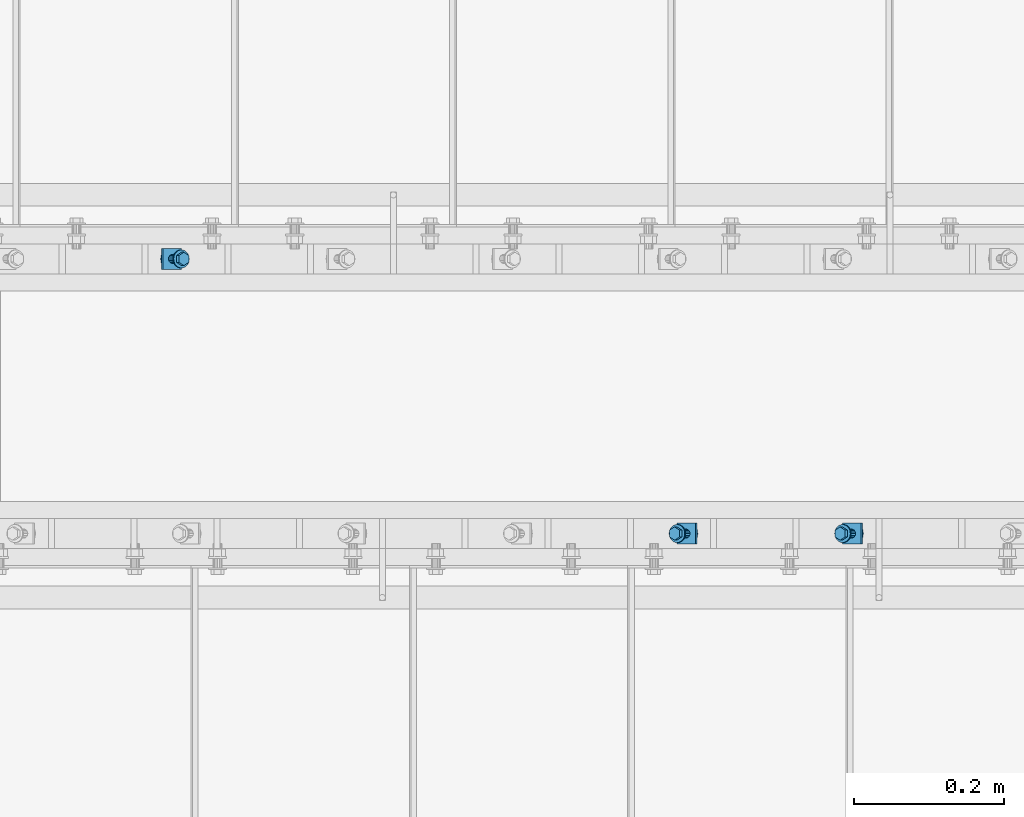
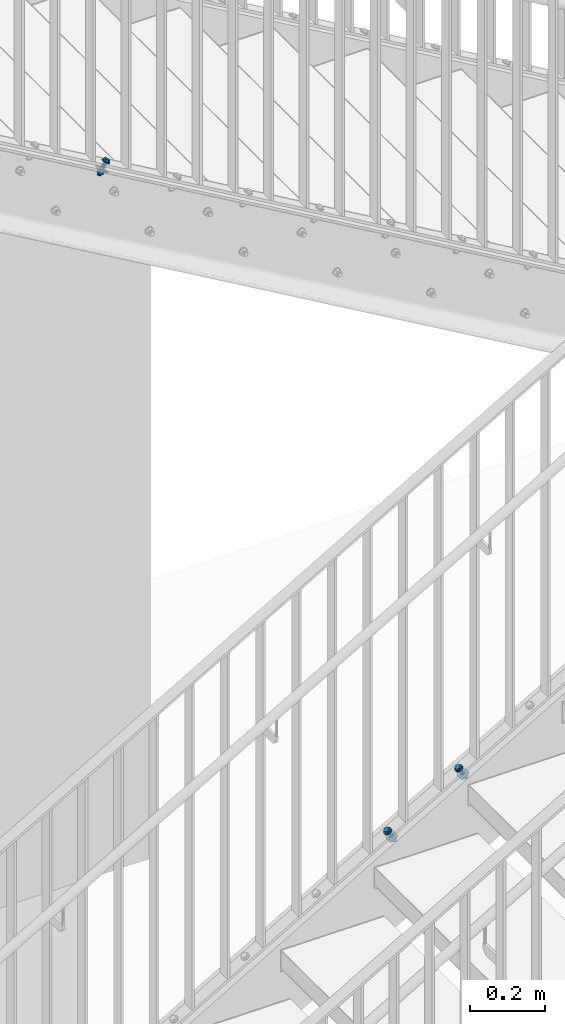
# One storey, part 83 of 145: 3 mechanical fasteners.
"""IFC2X3 building model written with IfcOpenShell, lengths in millimetres."""

from ifc_helpers import new_model, entity, si_unit, converted_unit, origin_with_axes, place, context, project, spatial, faceted_brep, element, save


model = new_model("IFC2X3")

# Units and contexts
model_context = context("Model", 3, precision=1e-09, world=origin_with_axes())
ifc_project = project(units=[si_unit("LENGTHUNIT", "METRE", prefix="MILLI"), si_unit("AREAUNIT", "SQUARE_METRE"), si_unit("VOLUMEUNIT", "CUBIC_METRE"), converted_unit("PLANEANGLEUNIT", "DEGREE", entity("IfcPlaneAngleMeasure", 0.01745329), si_unit("PLANEANGLEUNIT", "RADIAN"), dimensions=[0, 0, 0, 0, 0, 0, 0])], contexts=[model_context])

# Site, building, storey
site_placement = place(None, origin_with_axes())
site = spatial("IfcSite", under=ifc_project, at=site_placement, Name="BZ1 Grund- und Mittelschule 85716 Unterschlei?heim", CompositionType="ELEMENT")
building_placement = place(site_placement, origin_with_axes())
building = spatial("IfcBuilding", under=site, at=building_placement, Name="Struktur 1", CompositionType="ELEMENT")
storey_placement = place(building_placement, origin_with_axes())
storey = spatial("IfcBuildingStorey", under=building, at=storey_placement, Name="Default Storey", CompositionType="ELEMENT", Elevation=0.0)

# Mechanical fasteners
mechanical_fastener_1_placement = place(None, origin_with_axes())
element("IfcMechanicalFastener", 1, at=mechanical_fastener_1_placement, inside=storey, ObjectType="-", NominalDiameter=12.0, NominalLength=45.0, context=model_context, shape_type="Brep", body=[
    faceted_brep([(18460.950503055, -1877.502, 782.508646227), (18459.693775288, -1877.502, 784.669811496), (18459.893100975, -1875.160916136, 784.78572032), (18461.149828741, -1875.160916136, 782.62455505), (18460.483418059, -1872.909798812, 785.12899248), (18461.740145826, -1872.909798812, 782.967827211), (18461.442040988, -1870.835157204, 785.686436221), (18462.698768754, -1870.835157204, 783.525270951), (18462.732130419, -1869.016718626, 786.436629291), (18463.988858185, -1869.016718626, 784.275464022), (18464.304108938, -1867.524364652, 787.350742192), (18465.560836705, -1867.524364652, 785.189576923), (18466.097566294, -1866.41544561, 788.393646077), (18467.35429406, -1866.41544561, 786.232480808), (18468.043580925, -1865.732576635, 789.525262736), (18469.300308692, -1865.732576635, 787.364097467), (18470.067368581, -1865.502, 790.702104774), (18471.324096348, -1865.502, 788.540939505), (18472.091156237, -1865.732576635, 791.878946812), (18473.347884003, -1865.732576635, 789.717781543), (18474.037170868, -1866.41544561, 793.010563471), (18475.293898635, -1866.41544561, 790.849398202), (18475.830628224, -1867.524364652, 794.053467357), (18477.08735599, -1867.524364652, 791.892302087), (18477.402606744, -1869.016718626, 794.967580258), (18478.65933451, -1869.016718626, 792.806414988), (18478.692696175, -1870.835157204, 795.717773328), (18479.949423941, -1870.835157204, 793.556608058), (18479.651319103, -1872.909798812, 796.275217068), (18480.908046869, -1872.909798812, 794.114051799), (18480.241636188, -1875.160916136, 796.618489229), (18481.498363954, -1875.160916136, 794.457323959), (18480.440961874, -1877.502, 796.734398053), (18481.69768964, -1877.502, 794.573232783), (18480.241636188, -1879.843083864, 796.618489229), (18481.498363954, -1879.843083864, 794.457323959), (18479.651319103, -1882.094201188, 796.275217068), (18480.908046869, -1882.094201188, 794.114051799), (18478.692696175, -1884.168842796, 795.717773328), (18479.949423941, -1884.168842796, 793.556608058), (18477.402606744, -1885.987281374, 794.967580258), (18478.65933451, -1885.987281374, 792.806414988), (18475.830628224, -1887.479635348, 794.053467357), (18477.08735599, -1887.479635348, 791.892302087), (18474.037170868, -1888.58855439, 793.010563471), (18475.293898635, -1888.58855439, 790.849398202), (18472.091156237, -1889.271423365, 791.878946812), (18473.347884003, -1889.271423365, 789.717781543), (18470.067368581, -1889.502, 790.702104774), (18471.324096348, -1889.502, 788.540939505), (18468.043580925, -1889.271423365, 789.525262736), (18469.300308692, -1889.271423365, 787.364097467), (18466.097566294, -1888.58855439, 788.393646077), (18467.35429406, -1888.58855439, 786.232480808), (18464.304108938, -1887.479635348, 787.350742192), (18465.560836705, -1887.479635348, 785.189576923), (18462.732130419, -1885.987281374, 786.436629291), (18463.988858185, -1885.987281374, 784.275464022), (18461.442040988, -1884.168842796, 785.686436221), (18462.698768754, -1884.168842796, 783.525270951), (18460.483418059, -1882.094201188, 785.12899248), (18461.740145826, -1882.094201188, 782.967827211), (18459.893100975, -1879.843083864, 784.78572032), (18461.149828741, -1879.843083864, 782.62455505)], [[[0, 1, 2, 3]], [[3, 2, 4, 5]], [[5, 4, 6, 7]], [[7, 6, 8, 9]], [[9, 8, 10, 11]], [[11, 10, 12, 13]], [[13, 12, 14, 15]], [[15, 14, 16, 17]], [[17, 16, 18, 19]], [[19, 18, 20, 21]], [[21, 20, 22, 23]], [[23, 22, 24, 25]], [[25, 24, 26, 27]], [[27, 26, 28, 29]], [[29, 28, 30, 31]], [[31, 30, 32, 33]], [[33, 32, 34, 35]], [[35, 34, 36, 37]], [[37, 36, 38, 39]], [[39, 38, 40, 41]], [[41, 40, 42, 43]], [[43, 42, 44, 45]], [[45, 44, 46, 47]], [[47, 46, 48, 49]], [[49, 48, 50, 51]], [[51, 50, 52, 53]], [[53, 52, 54, 55]], [[55, 54, 56, 57]], [[57, 56, 58, 59]], [[59, 58, 60, 61]], [[61, 60, 62, 63]], [[63, 62, 1, 0]], [[2, 1, 62, 60, 58, 56, 54, 52, 50, 48, 46, 44, 42, 40, 38, 36, 34, 32, 30, 28, 26, 24, 22, 20, 18, 16, 14, 12, 10, 8, 6, 4]], [[63, 0, 3, 5, 7, 9, 11, 13, 15, 17, 19, 21, 23, 25, 27, 29, 31, 33, 35, 37, 39, 41, 43, 45, 47, 49, 51, 53, 55, 57, 59, 61]]]),
    faceted_brep([(18473.501897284, -1873.0595, 800.102712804), (18476.719120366, -1873.0595, 794.570129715), (18470.067368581, -1868.617, 790.702104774), (18466.850145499, -1868.617, 796.234687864), (18463.415616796, -1873.0595, 786.834079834), (18460.198393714, -1873.0595, 792.366662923), (18463.415616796, -1881.9445, 786.834079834), (18460.198393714, -1881.9445, 792.366662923), (18470.067368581, -1886.387, 790.702104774), (18466.850145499, -1886.387, 796.234687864), (18476.719120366, -1881.9445, 794.570129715), (18473.501897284, -1881.9445, 800.102712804)], [[[0, 1, 2, 3]], [[3, 2, 4, 5]], [[5, 4, 6, 7]], [[7, 6, 8, 9]], [[9, 8, 10, 11]], [[11, 10, 1, 0]], [[3, 5, 7, 9, 11, 0]], [[2, 1, 10, 8, 6, 4]]]),
    faceted_brep([(18477.03706156, -1877.502, 766.780727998), (18466.137299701, -1877.502, 785.524792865), (18466.532121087, -1875.205899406, 785.754383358), (18477.431882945, -1875.205899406, 767.01031849), (18467.656477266, -1873.259359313, 786.408201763), (18478.556239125, -1873.259359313, 767.664136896), (18469.339195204, -1871.958722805, 787.386710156), (18480.238957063, -1871.958722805, 768.642645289), (18471.324096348, -1871.502, 788.540939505), (18482.223858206, -1871.502, 769.796874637), (18473.308997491, -1871.958722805, 789.695168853), (18484.20875935, -1871.958722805, 770.951103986), (18474.991715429, -1873.259359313, 790.673677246), (18485.891477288, -1873.259359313, 771.929612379), (18476.116071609, -1875.205899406, 791.327495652), (18487.015833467, -1875.205899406, 772.583430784), (18476.510892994, -1877.502, 791.557086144), (18487.410654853, -1877.502, 772.813021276), (18476.116071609, -1879.798100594, 791.327495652), (18487.015833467, -1879.798100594, 772.583430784), (18474.991715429, -1881.744640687, 790.673677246), (18485.891477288, -1881.744640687, 771.929612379), (18473.308997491, -1883.045277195, 789.695168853), (18484.20875935, -1883.045277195, 770.951103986), (18471.324096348, -1883.502, 788.540939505), (18482.223858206, -1883.502, 769.796874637), (18469.339195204, -1883.045277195, 787.386710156), (18480.238957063, -1883.045277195, 768.642645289), (18467.656477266, -1881.744640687, 786.408201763), (18478.556239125, -1881.744640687, 767.664136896), (18466.532121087, -1879.798100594, 785.754383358), (18477.431882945, -1879.798100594, 767.01031849)], [[[0, 1, 2, 3]], [[3, 2, 4, 5]], [[5, 4, 6, 7]], [[7, 6, 8, 9]], [[9, 8, 10, 11]], [[11, 10, 12, 13]], [[13, 12, 14, 15]], [[15, 14, 16, 17]], [[17, 16, 18, 19]], [[19, 18, 20, 21]], [[21, 20, 22, 23]], [[23, 22, 24, 25]], [[25, 24, 26, 27]], [[27, 26, 28, 29]], [[29, 28, 30, 31]], [[31, 30, 1, 0]], [[2, 1, 30, 28, 26, 24, 22, 20, 18, 16, 14, 12, 10, 8, 6, 4]], [[31, 0, 3, 5, 7, 9, 11, 13, 15, 17, 19, 21, 23, 25, 27, 29]]]),
    faceted_brep([(18494.449255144, -1863.359864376, 776.906000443), (18496.46001957, -1863.359864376, 773.448136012), (18472.009225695, -1863.359864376, 759.229884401), (18469.998461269, -1863.359864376, 762.687748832), (18472.009225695, -1891.644135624, 759.229884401), (18469.998461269, -1891.644135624, 762.687748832), (18496.46001957, -1891.644135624, 773.448136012), (18494.449255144, -1891.644135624, 776.906000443)], [[[0, 1, 2, 3]], [[3, 2, 4, 5]], [[5, 4, 6, 7]], [[7, 6, 1, 0]], [[3, 5, 7, 0]], [[2, 1, 6, 4]]]),
    faceted_brep([(18492.132876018, -1872.227, 770.931881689), (18497.159787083, -1872.227, 762.287220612), (18489.261533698, -1866.952, 757.694349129), (18484.234622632, -1866.952, 766.339010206), (18481.363280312, -1872.227, 753.101477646), (18476.336369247, -1872.227, 761.746138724), (18481.363280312, -1882.777, 753.101477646), (18476.336369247, -1882.777, 761.746138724), (18489.261533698, -1888.052, 757.694349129), (18484.234622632, -1888.052, 766.339010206), (18497.159787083, -1882.777, 762.287220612), (18492.132876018, -1882.777, 770.931881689)], [[[0, 1, 2, 3]], [[3, 2, 4, 5]], [[5, 4, 6, 7]], [[7, 6, 8, 9]], [[9, 8, 10, 11]], [[11, 10, 1, 0]], [[3, 5, 7, 9, 11, 0]], [[2, 1, 10, 8, 6, 4]]]),
    faceted_brep([(18487.501671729, -1877.502, 748.784983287), (18484.074737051, -1877.502, 754.67820249), (18484.469558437, -1875.205899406, 754.907792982), (18487.896493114, -1875.205899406, 749.014573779), (18485.593914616, -1873.259359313, 755.561611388), (18489.020849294, -1873.259359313, 749.668392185), (18487.276632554, -1871.958722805, 756.540119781), (18490.703567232, -1871.958722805, 750.646900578), (18489.261533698, -1871.502, 757.694349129), (18492.688468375, -1871.502, 751.801129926), (18491.246434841, -1871.958722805, 758.848578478), (18494.673369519, -1871.958722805, 752.955359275), (18492.929152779, -1873.259359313, 759.827086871), (18496.356087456, -1873.259359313, 753.933867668), (18494.053508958, -1875.205899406, 760.480905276), (18497.480443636, -1875.205899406, 754.587686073), (18494.448330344, -1877.502, 760.710495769), (18497.875265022, -1877.502, 754.817276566), (18494.053508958, -1879.798100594, 760.480905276), (18497.480443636, -1879.798100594, 754.587686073), (18492.929152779, -1881.744640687, 759.827086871), (18496.356087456, -1881.744640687, 753.933867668), (18491.246434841, -1883.045277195, 758.848578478), (18494.673369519, -1883.045277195, 752.955359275), (18489.261533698, -1883.502, 757.694349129), (18492.688468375, -1883.502, 751.801129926), (18487.276632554, -1883.045277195, 756.540119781), (18490.703567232, -1883.045277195, 750.646900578), (18485.593914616, -1881.744640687, 755.561611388), (18489.020849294, -1881.744640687, 749.668392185), (18484.469558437, -1879.798100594, 754.907792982), (18487.896493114, -1879.798100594, 749.014573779)], [[[0, 1, 2, 3]], [[3, 2, 4, 5]], [[5, 4, 6, 7]], [[7, 6, 8, 9]], [[9, 8, 10, 11]], [[11, 10, 12, 13]], [[13, 12, 14, 15]], [[15, 14, 16, 17]], [[17, 16, 18, 19]], [[19, 18, 20, 21]], [[21, 20, 22, 23]], [[23, 22, 24, 25]], [[25, 24, 26, 27]], [[27, 26, 28, 29]], [[29, 28, 30, 31]], [[31, 30, 1, 0]], [[2, 1, 30, 28, 26, 24, 22, 20, 18, 16, 14, 12, 10, 8, 6, 4]], [[31, 0, 3, 5, 7, 9, 11, 13, 15, 17, 19, 21, 23, 25, 27, 29]]]),
])
mechanical_fastener_2_placement = place(None, origin_with_axes())
element("IfcMechanicalFastener", 2, at=mechanical_fastener_2_placement, inside=storey, ObjectType="-", NominalDiameter=12.0, NominalLength=45.0, context=model_context, shape_type="Brep", body=[
    faceted_brep([(18680.951005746, -1877.502, 910.439973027), (18679.69427798, -1877.502, 912.601138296), (18679.893603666, -1875.160916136, 912.71704712), (18681.150331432, -1875.160916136, 910.55588185), (18680.483920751, -1872.909798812, 913.06031928), (18681.740648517, -1872.909798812, 910.899154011), (18681.442543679, -1870.835157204, 913.617763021), (18682.699271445, -1870.835157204, 911.456597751), (18682.73263311, -1869.016718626, 914.367956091), (18683.989360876, -1869.016718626, 912.206790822), (18684.304611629, -1867.524364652, 915.282068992), (18685.561339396, -1867.524364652, 913.120903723), (18686.098068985, -1866.41544561, 916.324972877), (18687.354796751, -1866.41544561, 914.163807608), (18688.044083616, -1865.732576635, 917.456589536), (18689.300811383, -1865.732576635, 915.295424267), (18690.067871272, -1865.502, 918.633431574), (18691.324599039, -1865.502, 916.472266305), (18692.091658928, -1865.732576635, 919.810273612), (18693.348386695, -1865.732576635, 917.649108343), (18694.03767356, -1866.41544561, 920.941890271), (18695.294401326, -1866.41544561, 918.780725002), (18695.831130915, -1867.524364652, 921.984794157), (18697.087858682, -1867.524364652, 919.823628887), (18697.403109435, -1869.016718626, 922.898907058), (18698.659837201, -1869.016718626, 920.737741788), (18698.693198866, -1870.835157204, 923.649100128), (18699.949926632, -1870.835157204, 921.487934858), (18699.651821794, -1872.909798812, 924.206543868), (18700.90854956, -1872.909798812, 922.045378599), (18700.242138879, -1875.160916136, 924.549816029), (18701.498866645, -1875.160916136, 922.388650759), (18700.441464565, -1877.502, 924.665724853), (18701.698192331, -1877.502, 922.504559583), (18700.242138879, -1879.843083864, 924.549816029), (18701.498866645, -1879.843083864, 922.388650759), (18699.651821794, -1882.094201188, 924.206543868), (18700.90854956, -1882.094201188, 922.045378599), (18698.693198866, -1884.168842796, 923.649100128), (18699.949926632, -1884.168842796, 921.487934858), (18697.403109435, -1885.987281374, 922.898907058), (18698.659837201, -1885.987281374, 920.737741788), (18695.831130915, -1887.479635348, 921.984794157), (18697.087858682, -1887.479635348, 919.823628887), (18694.03767356, -1888.58855439, 920.941890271), (18695.294401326, -1888.58855439, 918.780725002), (18692.091658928, -1889.271423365, 919.810273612), (18693.348386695, -1889.271423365, 917.649108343), (18690.067871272, -1889.502, 918.633431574), (18691.324599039, -1889.502, 916.472266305), (18688.044083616, -1889.271423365, 917.456589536), (18689.300811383, -1889.271423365, 915.295424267), (18686.098068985, -1888.58855439, 916.324972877), (18687.354796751, -1888.58855439, 914.163807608), (18684.304611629, -1887.479635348, 915.282068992), (18685.561339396, -1887.479635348, 913.120903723), (18682.73263311, -1885.987281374, 914.367956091), (18683.989360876, -1885.987281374, 912.206790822), (18681.442543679, -1884.168842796, 913.617763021), (18682.699271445, -1884.168842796, 911.456597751), (18680.483920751, -1882.094201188, 913.06031928), (18681.740648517, -1882.094201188, 910.899154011), (18679.893603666, -1879.843083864, 912.71704712), (18681.150331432, -1879.843083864, 910.55588185)], [[[0, 1, 2, 3]], [[3, 2, 4, 5]], [[5, 4, 6, 7]], [[7, 6, 8, 9]], [[9, 8, 10, 11]], [[11, 10, 12, 13]], [[13, 12, 14, 15]], [[15, 14, 16, 17]], [[17, 16, 18, 19]], [[19, 18, 20, 21]], [[21, 20, 22, 23]], [[23, 22, 24, 25]], [[25, 24, 26, 27]], [[27, 26, 28, 29]], [[29, 28, 30, 31]], [[31, 30, 32, 33]], [[33, 32, 34, 35]], [[35, 34, 36, 37]], [[37, 36, 38, 39]], [[39, 38, 40, 41]], [[41, 40, 42, 43]], [[43, 42, 44, 45]], [[45, 44, 46, 47]], [[47, 46, 48, 49]], [[49, 48, 50, 51]], [[51, 50, 52, 53]], [[53, 52, 54, 55]], [[55, 54, 56, 57]], [[57, 56, 58, 59]], [[59, 58, 60, 61]], [[61, 60, 62, 63]], [[63, 62, 1, 0]], [[2, 1, 62, 60, 58, 56, 54, 52, 50, 48, 46, 44, 42, 40, 38, 36, 34, 32, 30, 28, 26, 24, 22, 20, 18, 16, 14, 12, 10, 8, 6, 4]], [[63, 0, 3, 5, 7, 9, 11, 13, 15, 17, 19, 21, 23, 25, 27, 29, 31, 33, 35, 37, 39, 41, 43, 45, 47, 49, 51, 53, 55, 57, 59, 61]]]),
    faceted_brep([(18693.502399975, -1873.0595, 928.034039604), (18696.719623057, -1873.0595, 922.501456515), (18690.067871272, -1868.617, 918.633431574), (18686.850648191, -1868.617, 924.166014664), (18683.416119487, -1873.0595, 914.765406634), (18680.198896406, -1873.0595, 920.297989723), (18683.416119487, -1881.9445, 914.765406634), (18680.198896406, -1881.9445, 920.297989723), (18690.067871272, -1886.387, 918.633431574), (18686.850648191, -1886.387, 924.166014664), (18696.719623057, -1881.9445, 922.501456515), (18693.502399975, -1881.9445, 928.034039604)], [[[0, 1, 2, 3]], [[3, 2, 4, 5]], [[5, 4, 6, 7]], [[7, 6, 8, 9]], [[9, 8, 10, 11]], [[11, 10, 1, 0]], [[3, 5, 7, 9, 11, 0]], [[2, 1, 10, 8, 6, 4]]]),
    faceted_brep([(18697.037564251, -1877.502, 894.712054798), (18686.137802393, -1877.502, 913.456119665), (18686.532623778, -1875.205899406, 913.685710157), (18697.432385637, -1875.205899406, 894.94164529), (18687.656979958, -1873.259359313, 914.339528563), (18698.556741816, -1873.259359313, 895.595463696), (18689.339697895, -1871.958722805, 915.318036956), (18700.239459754, -1871.958722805, 896.573972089), (18691.324599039, -1871.502, 916.472266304), (18702.224360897, -1871.502, 897.728201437), (18693.309500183, -1871.958722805, 917.626495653), (18704.209262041, -1871.958722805, 898.882430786), (18694.99221812, -1873.259359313, 918.605004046), (18705.891979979, -1873.259359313, 899.860939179), (18696.1165743, -1875.205899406, 919.258822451), (18707.016336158, -1875.205899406, 900.514757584), (18696.511395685, -1877.502, 919.488412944), (18707.411157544, -1877.502, 900.744348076), (18696.1165743, -1879.798100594, 919.258822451), (18707.016336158, -1879.798100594, 900.514757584), (18694.99221812, -1881.744640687, 918.605004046), (18705.891979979, -1881.744640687, 899.860939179), (18693.309500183, -1883.045277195, 917.626495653), (18704.209262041, -1883.045277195, 898.882430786), (18691.324599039, -1883.502, 916.472266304), (18702.224360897, -1883.502, 897.728201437), (18689.339697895, -1883.045277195, 915.318036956), (18700.239459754, -1883.045277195, 896.573972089), (18687.656979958, -1881.744640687, 914.339528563), (18698.556741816, -1881.744640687, 895.595463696), (18686.532623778, -1879.798100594, 913.685710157), (18697.432385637, -1879.798100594, 894.94164529)], [[[0, 1, 2, 3]], [[3, 2, 4, 5]], [[5, 4, 6, 7]], [[7, 6, 8, 9]], [[9, 8, 10, 11]], [[11, 10, 12, 13]], [[13, 12, 14, 15]], [[15, 14, 16, 17]], [[17, 16, 18, 19]], [[19, 18, 20, 21]], [[21, 20, 22, 23]], [[23, 22, 24, 25]], [[25, 24, 26, 27]], [[27, 26, 28, 29]], [[29, 28, 30, 31]], [[31, 30, 1, 0]], [[2, 1, 30, 28, 26, 24, 22, 20, 18, 16, 14, 12, 10, 8, 6, 4]], [[31, 0, 3, 5, 7, 9, 11, 13, 15, 17, 19, 21, 23, 25, 27, 29]]]),
    faceted_brep([(18714.449757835, -1863.359864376, 904.837327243), (18716.460522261, -1863.359864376, 901.379462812), (18692.009728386, -1863.359864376, 887.161211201), (18689.99896396, -1863.359864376, 890.619075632), (18692.009728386, -1891.644135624, 887.161211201), (18689.99896396, -1891.644135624, 890.619075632), (18716.460522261, -1891.644135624, 901.379462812), (18714.449757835, -1891.644135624, 904.837327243)], [[[0, 1, 2, 3]], [[3, 2, 4, 5]], [[5, 4, 6, 7]], [[7, 6, 1, 0]], [[3, 5, 7, 0]], [[2, 1, 6, 4]]]),
    faceted_brep([(18712.133378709, -1872.227, 898.863208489), (18717.160289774, -1872.227, 890.218547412), (18709.262036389, -1866.952, 885.625675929), (18704.235125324, -1866.952, 894.270337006), (18701.363783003, -1872.227, 881.032804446), (18696.336871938, -1872.227, 889.677465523), (18701.363783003, -1882.777, 881.032804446), (18696.336871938, -1882.777, 889.677465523), (18709.262036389, -1888.052, 885.625675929), (18704.235125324, -1888.052, 894.270337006), (18717.160289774, -1882.777, 890.218547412), (18712.133378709, -1882.777, 898.863208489)], [[[0, 1, 2, 3]], [[3, 2, 4, 5]], [[5, 4, 6, 7]], [[7, 6, 8, 9]], [[9, 8, 10, 11]], [[11, 10, 1, 0]], [[3, 5, 7, 9, 11, 0]], [[2, 1, 10, 8, 6, 4]]]),
    faceted_brep([(18707.50217442, -1877.502, 876.716310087), (18704.075239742, -1877.502, 882.60952929), (18704.470061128, -1875.205899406, 882.839119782), (18707.896995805, -1875.205899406, 876.945900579), (18705.594417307, -1873.259359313, 883.492938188), (18709.021351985, -1873.259359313, 877.599718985), (18707.277135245, -1871.958722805, 884.471446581), (18710.704069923, -1871.958722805, 878.578227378), (18709.262036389, -1871.502, 885.625675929), (18712.688971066, -1871.502, 879.732456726), (18711.246937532, -1871.958722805, 886.779905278), (18714.67387221, -1871.958722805, 880.886686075), (18712.92965547, -1873.259359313, 887.758413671), (18716.356590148, -1873.259359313, 881.865194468), (18714.05401165, -1875.205899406, 888.412232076), (18717.480946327, -1875.205899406, 882.519012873), (18714.448833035, -1877.502, 888.641822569), (18717.875767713, -1877.502, 882.748603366), (18714.05401165, -1879.798100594, 888.412232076), (18717.480946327, -1879.798100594, 882.519012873), (18712.92965547, -1881.744640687, 887.758413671), (18716.356590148, -1881.744640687, 881.865194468), (18711.246937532, -1883.045277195, 886.779905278), (18714.67387221, -1883.045277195, 880.886686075), (18709.262036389, -1883.502, 885.625675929), (18712.688971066, -1883.502, 879.732456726), (18707.277135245, -1883.045277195, 884.471446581), (18710.704069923, -1883.045277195, 878.578227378), (18705.594417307, -1881.744640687, 883.492938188), (18709.021351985, -1881.744640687, 877.599718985), (18704.470061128, -1879.798100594, 882.839119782), (18707.896995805, -1879.798100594, 876.945900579)], [[[0, 1, 2, 3]], [[3, 2, 4, 5]], [[5, 4, 6, 7]], [[7, 6, 8, 9]], [[9, 8, 10, 11]], [[11, 10, 12, 13]], [[13, 12, 14, 15]], [[15, 14, 16, 17]], [[17, 16, 18, 19]], [[19, 18, 20, 21]], [[21, 20, 22, 23]], [[23, 22, 24, 25]], [[25, 24, 26, 27]], [[27, 26, 28, 29]], [[29, 28, 30, 31]], [[31, 30, 1, 0]], [[2, 1, 30, 28, 26, 24, 22, 20, 18, 16, 14, 12, 10, 8, 6, 4]], [[31, 0, 3, 5, 7, 9, 11, 13, 15, 17, 19, 21, 23, 25, 27, 29]]]),
])
mechanical_fastener_3_placement = place(None, origin_with_axes())
element("IfcMechanicalFastener", 3, at=mechanical_fastener_3_placement, inside=storey, ObjectType="-", NominalDiameter=12.0, NominalLength=45.0, context=model_context, shape_type="Brep", body=[
    faceted_brep([(17820.736880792, -1512.502, 2980.596420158), (17821.993608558, -1512.502, 2982.757585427), (17821.794282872, -1514.843083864, 2982.873494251), (17820.537555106, -1514.843083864, 2980.712328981), (17821.203965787, -1517.094201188, 2983.216766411), (17819.947238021, -1517.094201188, 2981.055601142), (17820.245342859, -1519.168842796, 2983.774210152), (17818.988615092, -1519.168842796, 2981.613044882), (17818.955253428, -1520.987281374, 2984.524403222), (17817.698525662, -1520.987281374, 2982.363237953), (17817.383274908, -1522.479635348, 2985.438516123), (17816.126547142, -1522.479635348, 2983.277350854), (17815.589817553, -1523.58855439, 2986.481420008), (17814.333089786, -1523.58855439, 2984.320254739), (17813.643802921, -1524.271423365, 2987.613036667), (17812.387075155, -1524.271423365, 2985.451871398), (17811.620015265, -1524.502, 2988.789878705), (17810.363287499, -1524.502, 2986.628713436), (17809.59622761, -1524.271423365, 2989.966720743), (17808.339499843, -1524.271423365, 2987.805555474), (17807.650212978, -1523.58855439, 2991.098337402), (17806.393485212, -1523.58855439, 2988.937172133), (17805.856755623, -1522.479635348, 2992.141241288), (17804.600027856, -1522.479635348, 2989.980076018), (17804.284777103, -1520.987281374, 2993.055354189), (17803.028049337, -1520.987281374, 2990.894188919), (17802.994687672, -1519.168842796, 2993.805547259), (17801.737959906, -1519.168842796, 2991.644381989), (17802.036064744, -1517.094201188, 2994.362990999), (17800.779336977, -1517.094201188, 2992.20182573), (17801.445747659, -1514.843083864, 2994.70626316), (17800.189019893, -1514.843083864, 2992.54509789), (17801.246421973, -1512.502, 2994.822171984), (17799.989694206, -1512.502, 2992.661006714), (17801.445747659, -1510.160916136, 2994.70626316), (17800.189019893, -1510.160916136, 2992.54509789), (17802.036064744, -1507.909798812, 2994.362990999), (17800.779336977, -1507.909798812, 2992.20182573), (17802.994687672, -1505.835157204, 2993.805547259), (17801.737959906, -1505.835157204, 2991.644381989), (17804.284777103, -1504.016718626, 2993.055354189), (17803.028049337, -1504.016718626, 2990.894188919), (17805.856755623, -1502.524364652, 2992.141241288), (17804.600027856, -1502.524364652, 2989.980076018), (17807.650212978, -1501.41544561, 2991.098337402), (17806.393485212, -1501.41544561, 2988.937172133), (17809.59622761, -1500.732576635, 2989.966720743), (17808.339499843, -1500.732576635, 2987.805555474), (17811.620015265, -1500.502, 2988.789878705), (17810.363287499, -1500.502, 2986.628713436), (17813.643802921, -1500.732576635, 2987.613036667), (17812.387075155, -1500.732576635, 2985.451871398), (17815.589817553, -1501.41544561, 2986.481420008), (17814.333089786, -1501.41544561, 2984.320254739), (17817.383274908, -1502.524364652, 2985.438516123), (17816.126547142, -1502.524364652, 2983.277350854), (17818.955253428, -1504.016718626, 2984.524403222), (17817.698525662, -1504.016718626, 2982.363237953), (17820.245342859, -1505.835157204, 2983.774210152), (17818.988615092, -1505.835157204, 2981.613044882), (17821.203965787, -1507.909798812, 2983.216766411), (17819.947238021, -1507.909798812, 2981.055601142), (17821.794282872, -1510.160916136, 2982.873494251), (17820.537555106, -1510.160916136, 2980.712328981)], [[[0, 1, 2, 3]], [[3, 2, 4, 5]], [[5, 4, 6, 7]], [[7, 6, 8, 9]], [[9, 8, 10, 11]], [[11, 10, 12, 13]], [[13, 12, 14, 15]], [[15, 14, 16, 17]], [[17, 16, 18, 19]], [[19, 18, 20, 21]], [[21, 20, 22, 23]], [[23, 22, 24, 25]], [[25, 24, 26, 27]], [[27, 26, 28, 29]], [[29, 28, 30, 31]], [[31, 30, 32, 33]], [[33, 32, 34, 35]], [[35, 34, 36, 37]], [[37, 36, 38, 39]], [[39, 38, 40, 41]], [[41, 40, 42, 43]], [[43, 42, 44, 45]], [[45, 44, 46, 47]], [[47, 46, 48, 49]], [[49, 48, 50, 51]], [[51, 50, 52, 53]], [[53, 52, 54, 55]], [[55, 54, 56, 57]], [[57, 56, 58, 59]], [[59, 58, 60, 61]], [[61, 60, 62, 63]], [[63, 62, 1, 0]], [[2, 1, 62, 60, 58, 56, 54, 52, 50, 48, 46, 44, 42, 40, 38, 36, 34, 32, 30, 28, 26, 24, 22, 20, 18, 16, 14, 12, 10, 8, 6, 4]], [[63, 0, 3, 5, 7, 9, 11, 13, 15, 17, 19, 21, 23, 25, 27, 29, 31, 33, 35, 37, 39, 41, 43, 45, 47, 49, 51, 53, 55, 57, 59, 61]]]),
    faceted_brep([(17808.185486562, -1516.9445, 2998.190486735), (17804.968263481, -1516.9445, 2992.657903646), (17811.620015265, -1521.387, 2988.789878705), (17814.837238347, -1521.387, 2994.322461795), (17818.27176705, -1516.9445, 2984.921853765), (17821.488990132, -1516.9445, 2990.454436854), (17818.27176705, -1508.0595, 2984.921853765), (17821.488990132, -1508.0595, 2990.454436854), (17811.620015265, -1503.617, 2988.789878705), (17814.837238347, -1503.617, 2994.322461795), (17804.968263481, -1508.0595, 2992.657903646), (17808.185486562, -1508.0595, 2998.190486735)], [[[0, 1, 2, 3]], [[3, 2, 4, 5]], [[5, 4, 6, 7]], [[7, 6, 8, 9]], [[9, 8, 10, 11]], [[11, 10, 1, 0]], [[3, 5, 7, 9, 11, 0]], [[2, 1, 10, 8, 6, 4]]]),
    faceted_brep([(17804.650322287, -1512.502, 2964.868501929), (17815.550084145, -1512.502, 2983.612566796), (17815.15526276, -1514.798100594, 2983.842157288), (17804.255500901, -1514.798100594, 2965.098092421), (17814.03090658, -1516.744640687, 2984.495975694), (17803.131144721, -1516.744640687, 2965.751910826), (17812.348188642, -1518.045277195, 2985.474484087), (17801.448426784, -1518.045277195, 2966.73041922), (17810.363287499, -1518.502, 2986.628713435), (17799.46352564, -1518.502, 2967.884648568), (17808.378386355, -1518.045277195, 2987.782942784), (17797.478624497, -1518.045277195, 2969.038877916), (17806.695668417, -1516.744640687, 2988.761451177), (17795.795906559, -1516.744640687, 2970.01738631), (17805.571312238, -1514.798100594, 2989.415269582), (17794.671550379, -1514.798100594, 2970.671204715), (17805.176490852, -1512.502, 2989.644860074), (17794.276728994, -1512.502, 2970.900795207), (17805.571312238, -1510.205899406, 2989.415269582), (17794.671550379, -1510.205899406, 2970.671204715), (17806.695668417, -1508.259359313, 2988.761451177), (17795.795906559, -1508.259359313, 2970.01738631), (17808.378386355, -1506.958722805, 2987.782942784), (17797.478624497, -1506.958722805, 2969.038877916), (17810.363287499, -1506.502, 2986.628713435), (17799.46352564, -1506.502, 2967.884648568), (17812.348188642, -1506.958722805, 2985.474484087), (17801.448426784, -1506.958722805, 2966.73041922), (17814.03090658, -1508.259359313, 2984.495975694), (17803.131144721, -1508.259359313, 2965.751910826), (17815.15526276, -1510.205899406, 2983.842157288), (17804.255500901, -1510.205899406, 2965.098092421)], [[[0, 1, 2, 3]], [[3, 2, 4, 5]], [[5, 4, 6, 7]], [[7, 6, 8, 9]], [[9, 8, 10, 11]], [[11, 10, 12, 13]], [[13, 12, 14, 15]], [[15, 14, 16, 17]], [[17, 16, 18, 19]], [[19, 18, 20, 21]], [[21, 20, 22, 23]], [[23, 22, 24, 25]], [[25, 24, 26, 27]], [[27, 26, 28, 29]], [[29, 28, 30, 31]], [[31, 30, 1, 0]], [[2, 1, 30, 28, 26, 24, 22, 20, 18, 16, 14, 12, 10, 8, 6, 4]], [[31, 0, 3, 5, 7, 9, 11, 13, 15, 17, 19, 21, 23, 25, 27, 29]]]),
    faceted_brep([(17787.238128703, -1526.644135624, 2974.993774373), (17785.227364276, -1526.644135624, 2971.535909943), (17809.678158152, -1526.644135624, 2957.317658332), (17811.688922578, -1526.644135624, 2960.775522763), (17809.678158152, -1498.359864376, 2957.317658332), (17811.688922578, -1498.359864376, 2960.775522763), (17785.227364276, -1498.359864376, 2971.535909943), (17787.238128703, -1498.359864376, 2974.993774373)], [[[0, 1, 2, 3]], [[3, 2, 4, 5]], [[5, 4, 6, 7]], [[7, 6, 1, 0]], [[3, 5, 7, 0]], [[2, 1, 6, 4]]]),
    faceted_brep([(17789.554507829, -1517.777, 2969.01965562), (17784.527596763, -1517.777, 2960.374994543), (17792.425850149, -1523.052, 2955.78212306), (17797.452761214, -1523.052, 2964.426784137), (17800.324103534, -1517.777, 2951.189251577), (17805.3510146, -1517.777, 2959.833912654), (17800.324103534, -1507.227, 2951.189251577), (17805.3510146, -1507.227, 2959.833912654), (17792.425850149, -1501.952, 2955.78212306), (17797.452761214, -1501.952, 2964.426784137), (17784.527596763, -1507.227, 2960.374994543), (17789.554507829, -1507.227, 2969.01965562)], [[[0, 1, 2, 3]], [[3, 2, 4, 5]], [[5, 4, 6, 7]], [[7, 6, 8, 9]], [[9, 8, 10, 11]], [[11, 10, 1, 0]], [[3, 5, 7, 9, 11, 0]], [[2, 1, 10, 8, 6, 4]]]),
    faceted_brep([(17794.185712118, -1512.502, 2946.872757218), (17797.612646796, -1512.502, 2952.765976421), (17797.21782541, -1514.798100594, 2952.995566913), (17793.790890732, -1514.798100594, 2947.10234771), (17796.09346923, -1516.744640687, 2953.649385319), (17792.666534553, -1516.744640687, 2947.756166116), (17794.410751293, -1518.045277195, 2954.627893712), (17790.983816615, -1518.045277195, 2948.734674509), (17792.425850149, -1518.502, 2955.78212306), (17788.998915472, -1518.502, 2949.888903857), (17790.440949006, -1518.045277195, 2956.936352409), (17787.014014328, -1518.045277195, 2951.043133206), (17788.758231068, -1516.744640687, 2957.914860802), (17785.33129639, -1516.744640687, 2952.021641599), (17787.633874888, -1514.798100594, 2958.568679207), (17784.206940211, -1514.798100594, 2952.675460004), (17787.239053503, -1512.502, 2958.7982697), (17783.812118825, -1512.502, 2952.905050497), (17787.633874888, -1510.205899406, 2958.568679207), (17784.206940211, -1510.205899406, 2952.675460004), (17788.758231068, -1508.259359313, 2957.914860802), (17785.33129639, -1508.259359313, 2952.021641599), (17790.440949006, -1506.958722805, 2956.936352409), (17787.014014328, -1506.958722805, 2951.043133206), (17792.425850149, -1506.502, 2955.78212306), (17788.998915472, -1506.502, 2949.888903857), (17794.410751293, -1506.958722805, 2954.627893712), (17790.983816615, -1506.958722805, 2948.734674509), (17796.09346923, -1508.259359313, 2953.649385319), (17792.666534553, -1508.259359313, 2947.756166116), (17797.21782541, -1510.205899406, 2952.995566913), (17793.790890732, -1510.205899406, 2947.10234771)], [[[0, 1, 2, 3]], [[3, 2, 4, 5]], [[5, 4, 6, 7]], [[7, 6, 8, 9]], [[9, 8, 10, 11]], [[11, 10, 12, 13]], [[13, 12, 14, 15]], [[15, 14, 16, 17]], [[17, 16, 18, 19]], [[19, 18, 20, 21]], [[21, 20, 22, 23]], [[23, 22, 24, 25]], [[25, 24, 26, 27]], [[27, 26, 28, 29]], [[29, 28, 30, 31]], [[31, 30, 1, 0]], [[2, 1, 30, 28, 26, 24, 22, 20, 18, 16, 14, 12, 10, 8, 6, 4]], [[31, 0, 3, 5, 7, 9, 11, 13, 15, 17, 19, 21, 23, 25, 27, 29]]]),
])

save(model, "model.ifc")
